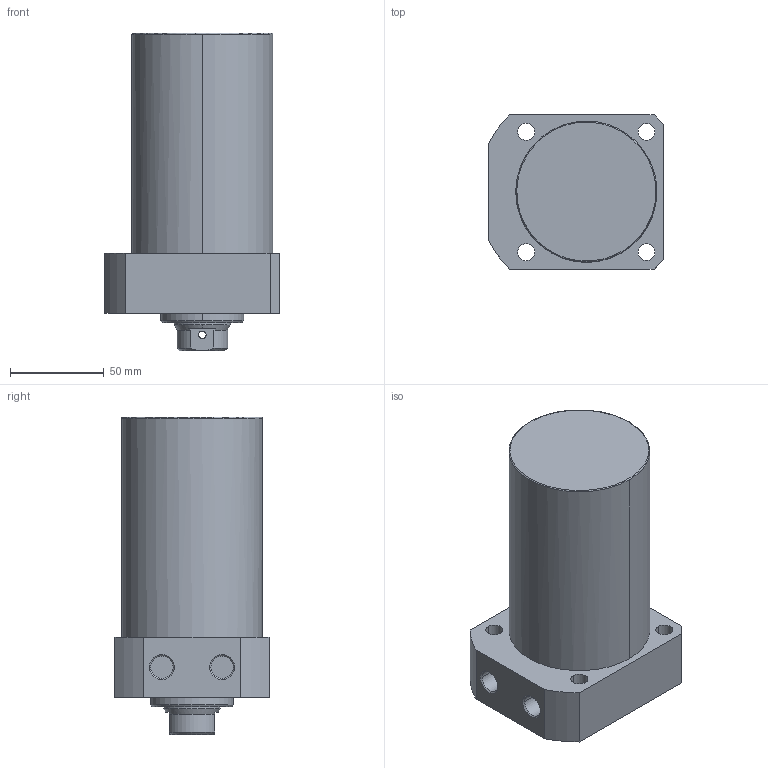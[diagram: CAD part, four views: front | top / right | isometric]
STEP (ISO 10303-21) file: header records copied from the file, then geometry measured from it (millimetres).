
FILE_DESCRIPTION((' '),'2;1');
FILE_NAME( 'TLLR-075CB-080.STEP.stp', '2025-10-24T16:35:07', (' '), ('--- Datakit www.datakit.com---'), ' Datakit CrossCadWare V2024.1 Dec 21 2023', 'Mastercam 2025', ' ');
FILE_SCHEMA(('AUTOMOTIVE_DESIGN { 1 0 10303 214 1 1 1 1 }'));
Length unit declared in the file: millimetre
Products named in the file (1): TLLR-075CB-080
Bounding box: 93 x 82 x 169 mm (x, y, z)
Volume: 751862.9 mm3; surface area: 61307.5 mm2
Topology: 1 solids, 1 shells, 67 faces, 197 edges, 136 vertices
Faces by surface type: cylinder 32, plane 19, cone 14, torus 2
Entity records: 3386 total; most frequent: CARTESIAN_POINT 1467, DIRECTION 426, ORIENTED_EDGE 390, EDGE_CURVE 195, AXIS2_PLACEMENT_3D 179, VERTEX_POINT 136, CIRCLE 111, EDGE_LOOP 85
